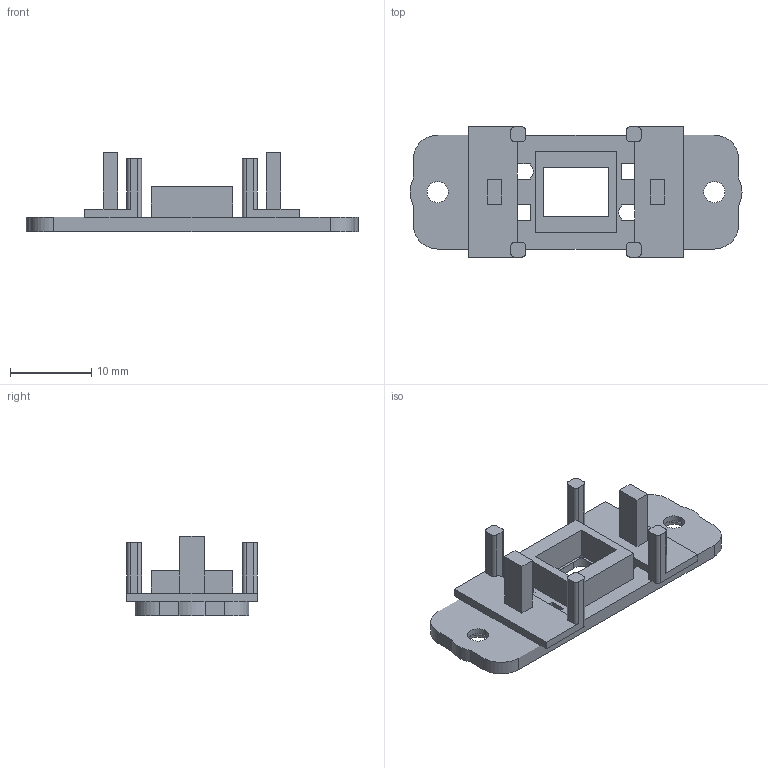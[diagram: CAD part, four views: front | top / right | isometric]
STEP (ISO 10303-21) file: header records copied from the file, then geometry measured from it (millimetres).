
FILE_DESCRIPTION(/* description */ (''),/* implementation_level */ '2;1');
FILE_NAME(/* name */ 'P04.step',/* time_stamp */ '2026-09-15T15:14:57-07:00',/* author */ (''),/* organization */ (''),/* preprocessor_version */ 'ST-DEVELOPER v20.1',/* originating_system */ 'Autodesk Translation Framework v15.8.0.0',/* authorisation */ '');
FILE_SCHEMA (('AUTOMOTIVE_DESIGN { 1 0 10303 214 3 1 1 }'));
Length unit declared in the file: millimetre
Products named in the file (1): 2026-09-15-15-14-57-427
Bounding box: 40.8 x 16 x 9.75 mm (x, y, z)
Volume: 1352 mm3; surface area: 2011.1 mm2
Topology: 1 solids, 1 shells, 150 faces, 430 edges, 284 vertices
Faces by surface type: plane 110, cylinder 38, cone 2
Full cylindrical faces by diameter (mm): 2.6 x2, 3.92 x2
Entity records: 4927 total; most frequent: CARTESIAN_POINT 865, ORIENTED_EDGE 860, DIRECTION 808, EDGE_CURVE 430, LINE 354, VECTOR 354, VERTEX_POINT 284, AXIS2_PLACEMENT_3D 227
